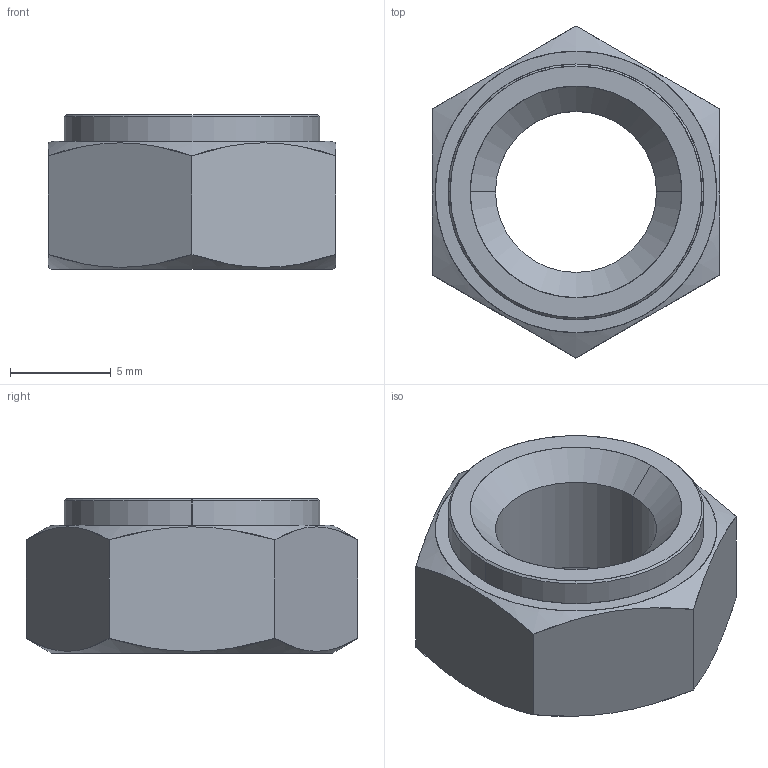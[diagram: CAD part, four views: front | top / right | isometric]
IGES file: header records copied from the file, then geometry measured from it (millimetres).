
Start section: SolidWorks IGES file using analytic representation for surfaces
Global section: file name: C:\Users\liam_\OneDrive\Desktop\Work\Mat Davis Pending 20181125\automotion\P SERIES\P0827.ZP_v2\P0827.ZP_v2_20181231_IGES\P0827.080-22G-ZP.igs; native system: SolidWorks 2017; preprocessor: SolidWorks 2017; author: liam_; date: 181231.110831; units: millimetre
Bounding box: 14.27 x 16.48 x 7.65 mm (x, y, z)
Surface area: 752.2 mm2 (no closed solid volume)
Topology: 0 solids, 0 shells, 23 faces, 424 edges, 424 vertices
Faces by surface type: revolution 14, bspline 9
